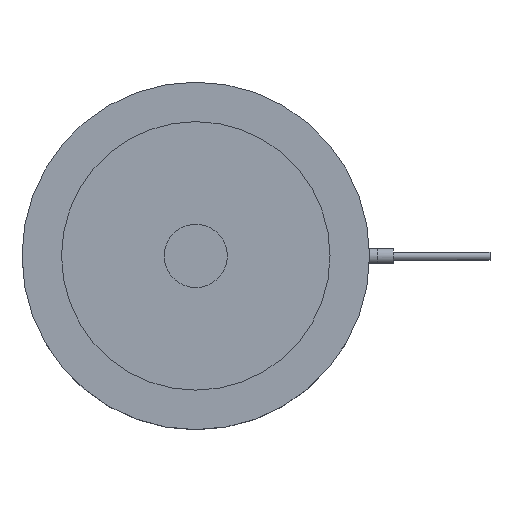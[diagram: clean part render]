
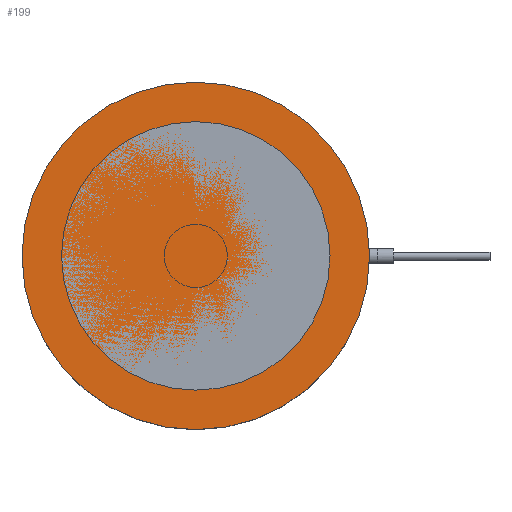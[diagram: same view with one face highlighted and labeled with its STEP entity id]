
A CAD part, top view. The second image highlights one B-rep face of the part: STEP entity #199.
In plain terms, the highlighted planar face has unit normal (0, 0, 1).
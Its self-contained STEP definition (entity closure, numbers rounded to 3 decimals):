
#139=PLANE('',#1088);
#199=ADVANCED_FACE('',(#272),#139,.F.);
#272=FACE_OUTER_BOUND('',#550,.T.);
#388=CIRCLE('',#1087,22.);
#550=EDGE_LOOP('',(#758));
#758=ORIENTED_EDGE('',*,*,#953,.F.);
#849=VERTEX_POINT('',#1956);
#953=EDGE_CURVE('',#849,#849,#388,.T.);
#1087=AXIS2_PLACEMENT_3D('',#1955,#1356,#1357);
#1088=AXIS2_PLACEMENT_3D('',#1957,#1358,#1359);
#1356=DIRECTION('',(0.,0.,-1.));
#1357=DIRECTION('',(-1.,0.,0.));
#1358=DIRECTION('',(0.,0.,-1.));
#1359=DIRECTION('',(-1.,0.,0.));
#1955=CARTESIAN_POINT('',(0.,0.,0.));
#1956=CARTESIAN_POINT('',(-22.,0.,0.));
#1957=CARTESIAN_POINT('',(0.,0.,0.));
